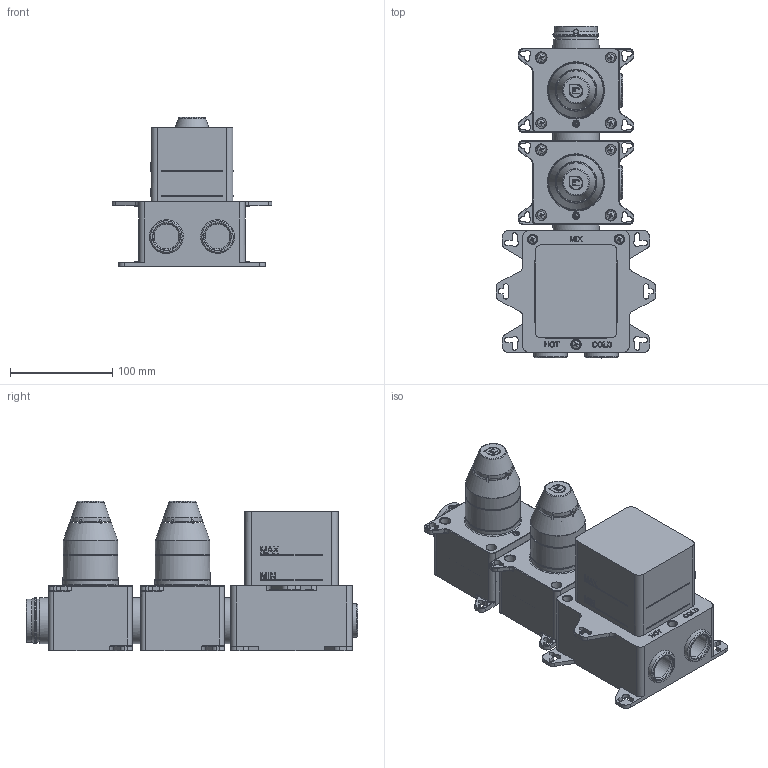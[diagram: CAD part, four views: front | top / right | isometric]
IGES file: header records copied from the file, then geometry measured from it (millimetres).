
Global section: file name: PM0030J; native system: Autodesk Inventor 2017; preprocessor: unknown; author: CIANI; date: 20210928.084636; units: millimetre
Bounding box: 156 x 324.5 x 146.1 mm (x, y, z)
Volume: 2136601.7 mm3; surface area: 342364 mm2
Topology: 1 solids, 1 shells, 2405 faces, 6718 edges, 4281 vertices
Faces by surface type: bspline 2405
